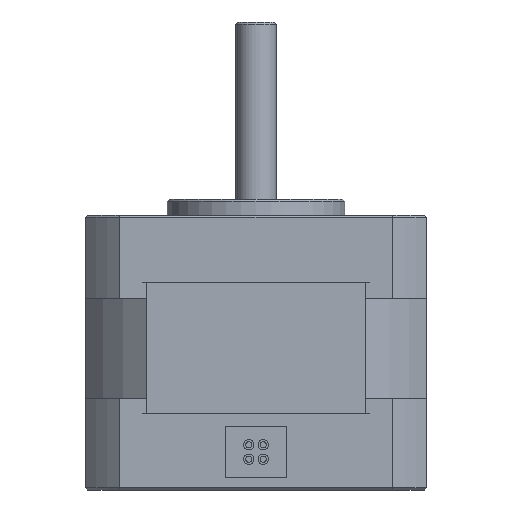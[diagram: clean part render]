
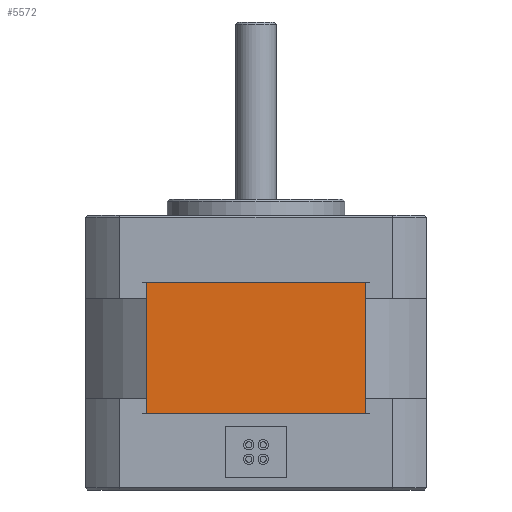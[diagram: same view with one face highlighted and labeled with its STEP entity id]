
A CAD part, front view. The second image highlights one B-rep face of the part: STEP entity #5572.
In plain terms, the highlighted planar face has unit normal (0, -1, 0).
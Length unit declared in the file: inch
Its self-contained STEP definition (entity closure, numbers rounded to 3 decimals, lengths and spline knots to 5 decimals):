
#488 = VECTOR ( 'NONE', #510, 39.37008 ) ;
#493 = LINE ( 'NONE', #511, #488 ) ;
#510 = DIRECTION ( 'NONE',  ( 0., 0., 1. ) ) ;
#511 = CARTESIAN_POINT ( 'NONE',  ( -0.53473, -0.829, -0.968 ) ) ;
#4815 = VERTEX_POINT ( 'NONE', #7862 ) ;
#4818 = EDGE_CURVE ( 'NONE', #4821, #4815, #7858, .T. ) ;
#4821 = VERTEX_POINT ( 'NONE', #8324 ) ;
#4885 = VERTEX_POINT ( 'NONE', #8659 ) ;
#4895 = VERTEX_POINT ( 'NONE', #8622 ) ;
#4902 = EDGE_CURVE ( 'NONE', #4895, #4885, #8615, .T. ) ;
#5567 = EDGE_LOOP ( 'NONE', ( #5888, #5675, #5682, #5680 ) ) ;
#5572 = ADVANCED_FACE ( 'NONE', ( #8074 ), #8067, .F. ) ;
#5583 = EDGE_CURVE ( 'NONE', #4895, #4821, #8162, .T. ) ;
#5675 = ORIENTED_EDGE ( 'NONE', *, *, #5679, .F. ) ;
#5679 = EDGE_CURVE ( 'NONE', #4885, #4815, #493, .T. ) ;
#5680 = ORIENTED_EDGE ( 'NONE', *, *, #5583, .T. ) ;
#5682 = ORIENTED_EDGE ( 'NONE', *, *, #4902, .F. ) ;
#5888 = ORIENTED_EDGE ( 'NONE', *, *, #4818, .T. ) ;
#7857 = CARTESIAN_POINT ( 'NONE',  ( 0.53473, -0.829, -0.33 ) ) ;
#7858 = LINE ( 'NONE', #7857, #7907 ) ;
#7862 = CARTESIAN_POINT ( 'NONE',  ( -0.53473, -0.829, -0.33 ) ) ;
#7907 = VECTOR ( 'NONE', #7915, 39.37008 ) ;
#7915 = DIRECTION ( 'NONE',  ( -1., 0., 0. ) ) ;
#8066 = AXIS2_PLACEMENT_3D ( 'NONE', #8099, #8098, #8097 ) ;
#8067 = PLANE ( 'NONE',  #8066 ) ;
#8074 = FACE_OUTER_BOUND ( 'NONE', #5567, .T. ) ;
#8097 = DIRECTION ( 'NONE',  ( -1., 0., 0. ) ) ;
#8098 = DIRECTION ( 'NONE',  ( 0., 1., 0. ) ) ;
#8099 = CARTESIAN_POINT ( 'NONE',  ( 0.53473, -0.829, -0.968 ) ) ;
#8160 = VECTOR ( 'NONE', #8173, 39.37008 ) ;
#8161 = CARTESIAN_POINT ( 'NONE',  ( 0.53473, -0.829, -0.968 ) ) ;
#8162 = LINE ( 'NONE', #8161, #8160 ) ;
#8173 = DIRECTION ( 'NONE',  ( 0., 0., 1. ) ) ;
#8324 = CARTESIAN_POINT ( 'NONE',  ( 0.53473, -0.829, -0.33 ) ) ;
#8615 = LINE ( 'NONE', #8678, #8673 ) ;
#8622 = CARTESIAN_POINT ( 'NONE',  ( 0.53473, -0.829, -0.968 ) ) ;
#8659 = CARTESIAN_POINT ( 'NONE',  ( -0.53473, -0.829, -0.968 ) ) ;
#8673 = VECTOR ( 'NONE', #8677, 39.37008 ) ;
#8677 = DIRECTION ( 'NONE',  ( -1., 0., 0. ) ) ;
#8678 = CARTESIAN_POINT ( 'NONE',  ( 0.53473, -0.829, -0.968 ) ) ;
